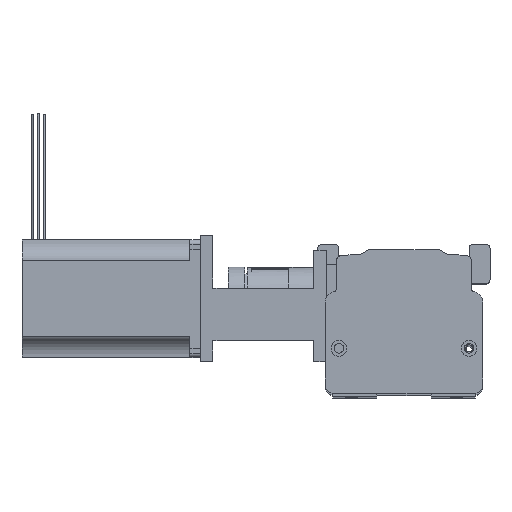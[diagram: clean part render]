
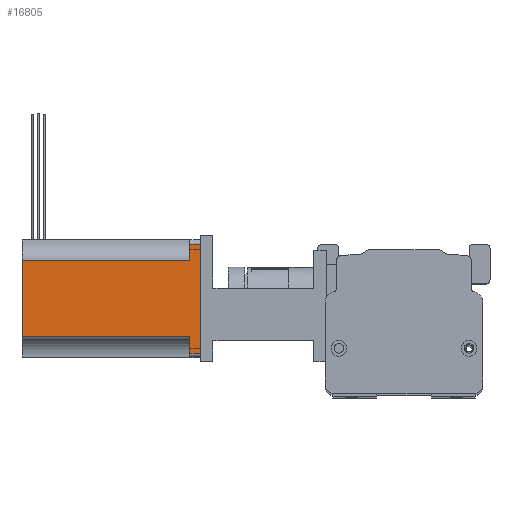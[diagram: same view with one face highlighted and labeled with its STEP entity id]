
A CAD part, top view. The second image highlights one B-rep face of the part: STEP entity #16805.
In plain terms, the highlighted planar face has unit normal (0, 0, 1) as drawn and (1, 0, 0) by its records, which use the part's own axes.
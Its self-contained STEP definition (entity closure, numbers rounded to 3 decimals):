
#86 = CARTESIAN_POINT ( 'NONE',  ( -0.308, -34.729, -5. ) ) ;
#2253 = LINE ( 'NONE', #19292, #28641 ) ;
#2972 = EDGE_LOOP ( 'NONE', ( #9354, #28176, #10910, #24380, #23778, #21257, #21810, #19087 ) ) ;
#3581 = CARTESIAN_POINT ( 'NONE',  ( -0.308, 17.271, -5. ) ) ;
#4427 = DIRECTION ( 'NONE',  ( 0., -1., 0. ) ) ;
#4489 = VECTOR ( 'NONE', #25833, 1000. ) ;
#5287 = CARTESIAN_POINT ( 'NONE',  ( -0.308, 9.271, 80. ) ) ;
#5854 = EDGE_CURVE ( 'NONE', #20380, #22954, #27433, .T. ) ;
#6190 = EDGE_CURVE ( 'NONE', #24912, #9976, #28178, .T. ) ;
#6852 = CARTESIAN_POINT ( 'NONE',  ( -0.308, -26.729, 0. ) ) ;
#6910 = CARTESIAN_POINT ( 'NONE',  ( -0.308, -26.729, 68. ) ) ;
#7153 = VECTOR ( 'NONE', #26293, 1000. ) ;
#7281 = EDGE_CURVE ( 'NONE', #13552, #22954, #20363, .T. ) ;
#7355 = VERTEX_POINT ( 'NONE', #6852 ) ;
#7437 = VECTOR ( 'NONE', #22433, 1000. ) ;
#8472 = CARTESIAN_POINT ( 'NONE',  ( -0.308, 9.271, 80. ) ) ;
#9354 = ORIENTED_EDGE ( 'NONE', *, *, #25118, .T. ) ;
#9976 = VERTEX_POINT ( 'NONE', #14848 ) ;
#10779 = LINE ( 'NONE', #24268, #16591 ) ;
#10910 = ORIENTED_EDGE ( 'NONE', *, *, #14399, .F. ) ;
#11098 = LINE ( 'NONE', #8472, #4489 ) ;
#11826 = VECTOR ( 'NONE', #19395, 1000. ) ;
#12601 = CARTESIAN_POINT ( 'NONE',  ( -0.308, 9.271, 68. ) ) ;
#13552 = VERTEX_POINT ( 'NONE', #20221 ) ;
#13707 = DIRECTION ( 'NONE',  ( 0., -1., 0. ) ) ;
#13959 = VERTEX_POINT ( 'NONE', #24662 ) ;
#14399 = EDGE_CURVE ( 'NONE', #9976, #24346, #22997, .T. ) ;
#14848 = CARTESIAN_POINT ( 'NONE',  ( -0.308, -34.729, -5. ) ) ;
#15544 = DIRECTION ( 'NONE',  ( 0., -1., 0. ) ) ;
#16591 = VECTOR ( 'NONE', #26761, 1000. ) ;
#16805 = ADVANCED_FACE ( 'NONE', ( #24067 ), #17381, .F. ) ;
#17381 = PLANE ( 'NONE',  #25472 ) ;
#17826 = EDGE_CURVE ( 'NONE', #24912, #13552, #10779, .T. ) ;
#18419 = LINE ( 'NONE', #6910, #11826 ) ;
#18791 = EDGE_CURVE ( 'NONE', #13959, #20380, #11098, .T. ) ;
#18918 = CARTESIAN_POINT ( 'NONE',  ( -0.308, 17.271, 0. ) ) ;
#19087 = ORIENTED_EDGE ( 'NONE', *, *, #18791, .F. ) ;
#19292 = CARTESIAN_POINT ( 'NONE',  ( -0.308, 17.271, 0. ) ) ;
#19395 = DIRECTION ( 'NONE',  ( 0., 0., -1. ) ) ;
#19661 = DIRECTION ( 'NONE',  ( 0., 0., -1. ) ) ;
#20074 = VECTOR ( 'NONE', #19661, 1000. ) ;
#20221 = CARTESIAN_POINT ( 'NONE',  ( -0.308, 17.271, 0. ) ) ;
#20363 = LINE ( 'NONE', #18918, #7153 ) ;
#20380 = VERTEX_POINT ( 'NONE', #5287 ) ;
#21257 = ORIENTED_EDGE ( 'NONE', *, *, #7281, .T. ) ;
#21810 = ORIENTED_EDGE ( 'NONE', *, *, #5854, .F. ) ;
#22175 = CARTESIAN_POINT ( 'NONE',  ( -0.308, 9.271, 68. ) ) ;
#22433 = DIRECTION ( 'NONE',  ( 0., 0., 1. ) ) ;
#22954 = VERTEX_POINT ( 'NONE', #24961 ) ;
#22997 = LINE ( 'NONE', #86, #7437 ) ;
#23693 = CARTESIAN_POINT ( 'NONE',  ( -0.308, 17.271, -5. ) ) ;
#23778 = ORIENTED_EDGE ( 'NONE', *, *, #17826, .T. ) ;
#24067 = FACE_OUTER_BOUND ( 'NONE', #2972, .T. ) ;
#24268 = CARTESIAN_POINT ( 'NONE',  ( -0.308, 17.271, -5. ) ) ;
#24346 = VERTEX_POINT ( 'NONE', #31579 ) ;
#24380 = ORIENTED_EDGE ( 'NONE', *, *, #6190, .F. ) ;
#24662 = CARTESIAN_POINT ( 'NONE',  ( -0.308, -26.729, 80. ) ) ;
#24912 = VERTEX_POINT ( 'NONE', #3581 ) ;
#24961 = CARTESIAN_POINT ( 'NONE',  ( -0.308, 9.271, 0. ) ) ;
#25118 = EDGE_CURVE ( 'NONE', #13959, #7355, #18419, .T. ) ;
#25472 = AXIS2_PLACEMENT_3D ( 'NONE', #12601, #30403, #15544 ) ;
#25833 = DIRECTION ( 'NONE',  ( 0., 1., 0. ) ) ;
#26293 = DIRECTION ( 'NONE',  ( 0., -1., 0. ) ) ;
#26622 = EDGE_CURVE ( 'NONE', #7355, #24346, #2253, .T. ) ;
#26761 = DIRECTION ( 'NONE',  ( 0., 0., 1. ) ) ;
#27406 = VECTOR ( 'NONE', #13707, 1000. ) ;
#27433 = LINE ( 'NONE', #22175, #20074 ) ;
#28176 = ORIENTED_EDGE ( 'NONE', *, *, #26622, .T. ) ;
#28178 = LINE ( 'NONE', #23693, #27406 ) ;
#28641 = VECTOR ( 'NONE', #4427, 1000. ) ;
#30403 = DIRECTION ( 'NONE',  ( -1., 0., 0. ) ) ;
#31579 = CARTESIAN_POINT ( 'NONE',  ( -0.308, -34.729, 0. ) ) ;
